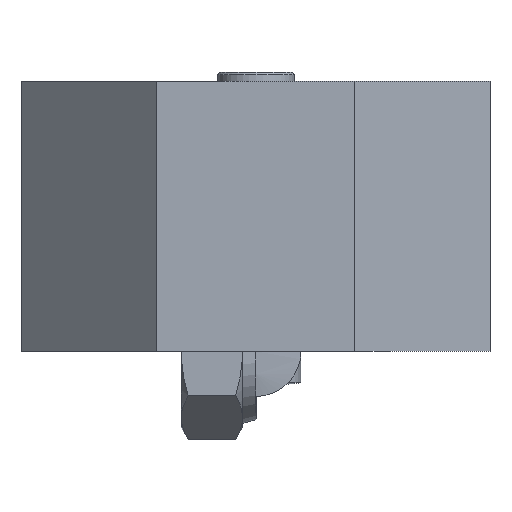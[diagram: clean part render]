
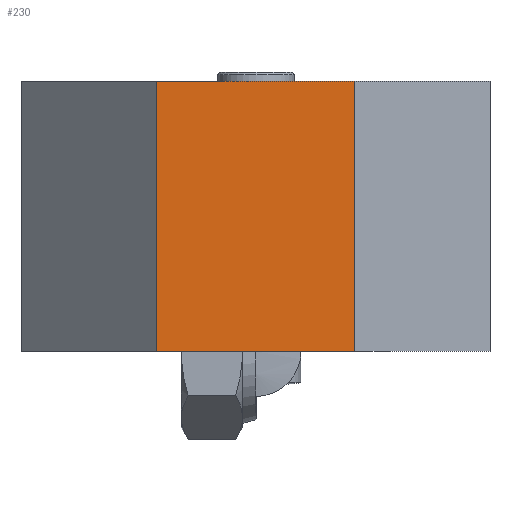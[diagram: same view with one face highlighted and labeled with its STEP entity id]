
A CAD part, left-side view. The second image highlights one B-rep face of the part: STEP entity #230.
In plain terms, the highlighted planar face has unit normal (-1, 0, 0).
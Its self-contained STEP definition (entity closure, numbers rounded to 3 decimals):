
#230 = ADVANCED_FACE( '', ( #308 ), #309, .T. );
#308 = FACE_OUTER_BOUND( '', #464, .T. );
#309 = PLANE( '', #465 );
#464 = EDGE_LOOP( '', ( #665, #666, #667, #668 ) );
#465 = AXIS2_PLACEMENT_3D( '', #669, #670, #671 );
#665 = ORIENTED_EDGE( '', *, *, #1106, .T. );
#666 = ORIENTED_EDGE( '', *, *, #1103, .T. );
#667 = ORIENTED_EDGE( '', *, *, #1081, .F. );
#668 = ORIENTED_EDGE( '', *, *, #1093, .T. );
#669 = CARTESIAN_POINT( '', ( -26., -26., 0. ) );
#670 = DIRECTION( '', ( -1., 0., 0. ) );
#671 = DIRECTION( '', ( 0., 0., 1. ) );
#1081 = EDGE_CURVE( '', #1220, #1221, #1222, .T. );
#1093 = EDGE_CURVE( '', #1220, #1242, #1244, .T. );
#1103 = EDGE_CURVE( '', #1260, #1221, #1261, .T. );
#1106 = EDGE_CURVE( '', #1242, #1260, #1265, .T. );
#1220 = VERTEX_POINT( '', #1450 );
#1221 = VERTEX_POINT( '', #1451 );
#1222 = LINE( '', #1452, #1453 );
#1242 = VERTEX_POINT( '', #1481 );
#1244 = LINE( '', #1484, #1485 );
#1260 = VERTEX_POINT( '', #1510 );
#1261 = LINE( '', #1511, #1512 );
#1265 = LINE( '', #1517, #1518 );
#1450 = CARTESIAN_POINT( '', ( -26., -11., 0. ) );
#1451 = CARTESIAN_POINT( '', ( -26., 11., 0. ) );
#1452 = CARTESIAN_POINT( '', ( -26., -26., 0. ) );
#1453 = VECTOR( '', #1882, 1000. );
#1481 = CARTESIAN_POINT( '', ( -26., -11., 30. ) );
#1484 = CARTESIAN_POINT( '', ( -26., -11., 30. ) );
#1485 = VECTOR( '', #1898, 1000. );
#1510 = CARTESIAN_POINT( '', ( -26., 11., 30. ) );
#1511 = CARTESIAN_POINT( '', ( -26., 11., 0. ) );
#1512 = VECTOR( '', #1908, 1000. );
#1517 = CARTESIAN_POINT( '', ( -26., -26., 30. ) );
#1518 = VECTOR( '', #1913, 1000. );
#1882 = DIRECTION( '', ( 0., 1., 0. ) );
#1898 = DIRECTION( '', ( 0., 0., 1. ) );
#1908 = DIRECTION( '', ( 0., 0., -1. ) );
#1913 = DIRECTION( '', ( 0., 1., 0. ) );
